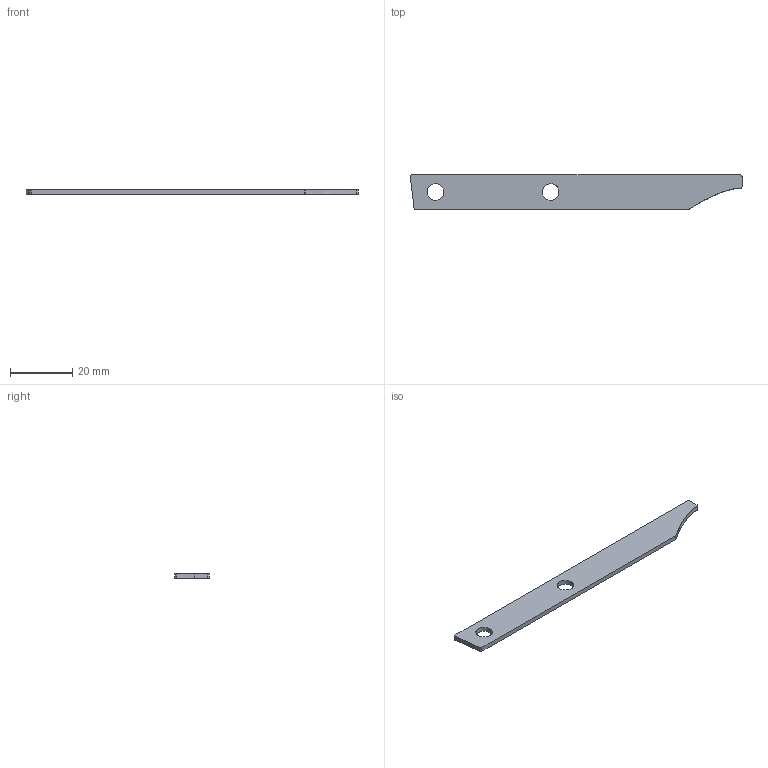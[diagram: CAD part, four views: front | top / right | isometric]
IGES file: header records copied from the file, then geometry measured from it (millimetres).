
Start section: START RECORD GO HERE.
Global section: file name: 20M_EL_09004  (chape crash sensor).igs; native system: IBM CATIA IGES - CATIA Version 5 Release 19 ; preprocessor: CATIA Version 5 Release 19 ; author: mik75; organization: LAPTOP-SUH344G9; date: 20200123.173015; units: millimetre
Bounding box: 106.72 x 11 x 1.5 mm (x, y, z)
Surface area: 2493.4 mm2 (no closed solid volume)
Topology: 0 solids, 0 shells, 17 faces, 92 edges, 97 vertices
Faces by surface type: revolution 9, plane 5, extrusion 3
